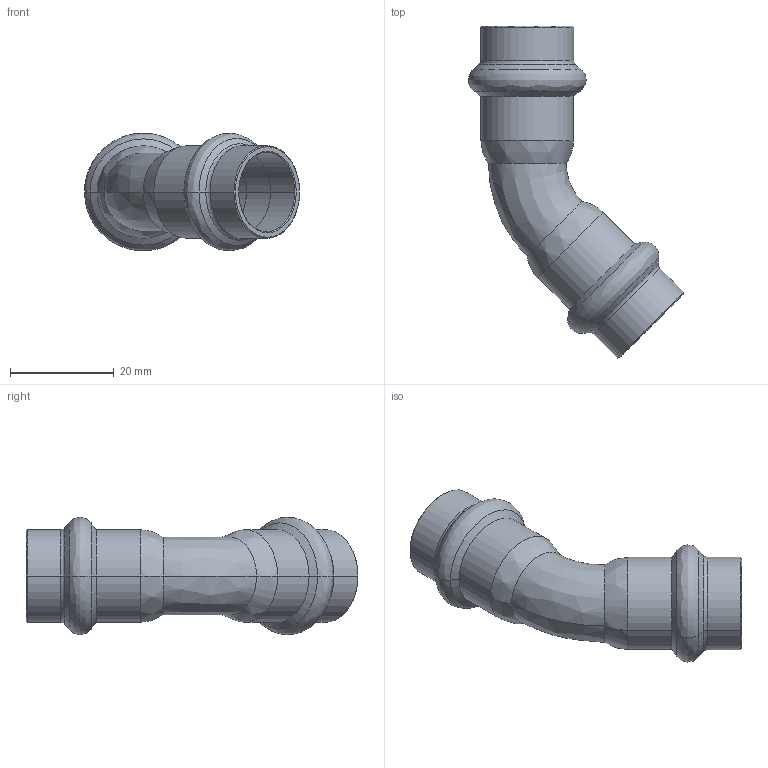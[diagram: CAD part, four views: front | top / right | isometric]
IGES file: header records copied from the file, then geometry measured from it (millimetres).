
Start section: Elysium IGES Interface
Global section: file name: C:\Users\Wallenburg\Desktop\3d modellen sudo\S-Pr VP\SP6041V\6041VW15.igs; native system: CoCreate Modeling 17.00A  17-Jun-2010; preprocessor: CoCreate IGES_3D V2.2; author: Unknown; organization: Unknown; date: 20130115.162528; units: millimetre
Bounding box: 41.49 x 64.04 x 22.67 mm (x, y, z)
Volume: 5775.1 mm3; surface area: 7418.1 mm2
Topology: 1 solids, 1 shells, 74 faces, 148 edges, 80 vertices
Faces by surface type: bspline 74
